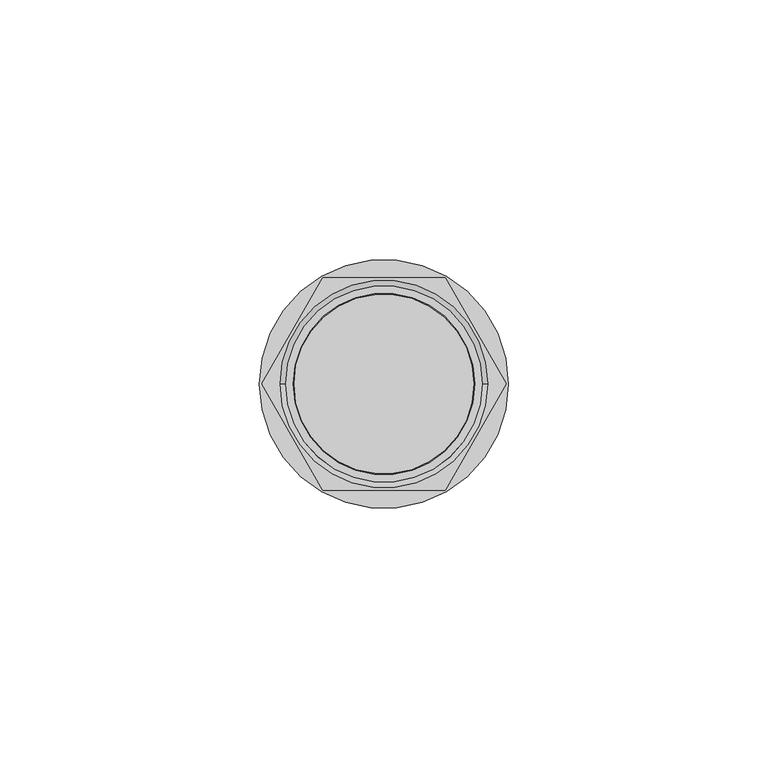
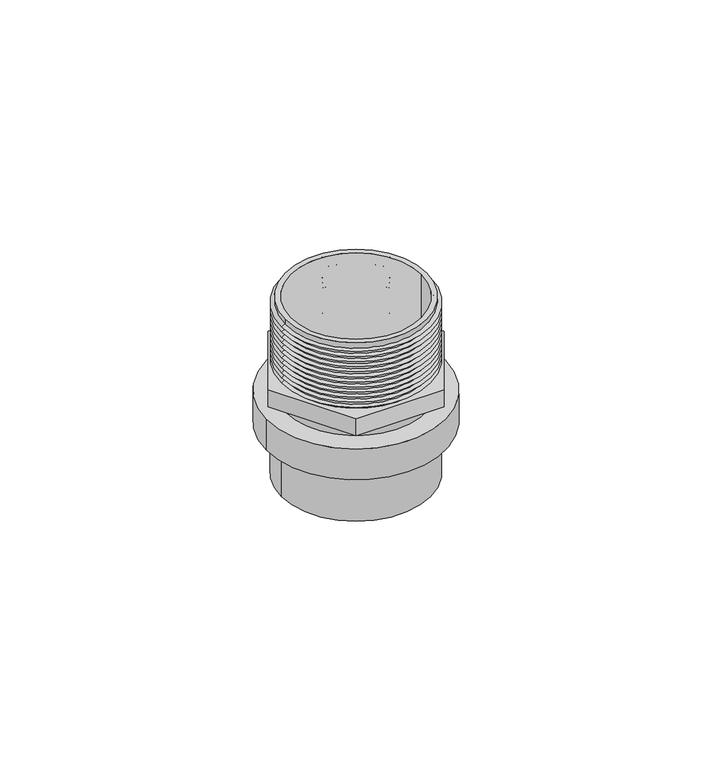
"""IFC4 building model written with IfcOpenShell, lengths in millimetres: valve geometry, Adaptador Macho con Ins Metalico_Lubrizol_CPVC_FlowGuard_MX 32mm : Adaptador Macho con Ins Metalico_Lubrizol_CPVC_FlowGuard_MX 32mm."""

from ifc_helpers import new_model, si_unit, point, frame, origin, origin_with_axes, origin_2d, place, context, project, spatial, polyline, circle_curve, trimmed, segment, composite_curve, outline, extrude, source, transform, mapped, element, save
from ifc_brep_helpers import plane_surface, cylinder_surface, revolved_surface, advanced_brep


def valve_9c0856a4(model_context):
    return source(origin(), model_context, "Body", "SolidModel", [
        extrude(outline(composite_curve([segment(trimmed(circle_curve(origin_2d(), 23.9920294), [point((-23.9920294, 0.0))], [point((23.9920294, 0.0))], False, "CARTESIAN"), True, "CONTINUOUS"), segment(trimmed(circle_curve(origin_2d(), 23.9920294), [point((23.9920294, 0.0))], [point((-23.9920294, 0.0))], False, "CARTESIAN"), True, "CONTINUOUS")], self_intersect=False)), frame((0.0, 0.0, 14.5509653), z_axis=(0.0, 0.0, 1.0), x_axis=(1.0, 0.0, 0.0)), (0.0, 0.0, 1.0), 8.7219583),
        extrude(outline(composite_curve([segment(trimmed(circle_curve(origin_2d(), 18.9323508), [point((-18.9323508, 0.0))], [point((18.9323508, 0.0))], False, "CARTESIAN"), True, "CONTINUOUS"), segment(trimmed(circle_curve(origin_2d(), 18.9323508), [point((18.9323508, 0.0))], [point((-18.9323508, 0.0))], False, "CARTESIAN"), True, "CONTINUOUS")], self_intersect=False), holes=[composite_curve([segment(trimmed(circle_curve(origin_2d(), 17.5), [point((-17.5, 0.0))], [point((17.5, 0.0))], True, "CARTESIAN"), True, "CONTINUOUS"), segment(trimmed(circle_curve(origin_2d(), 17.5), [point((17.5, 0.0))], [point((-17.5, 0.0))], True, "CARTESIAN"), True, "CONTINUOUS")], self_intersect=False)]), frame((0.0, 0.0, 23.2729235), z_axis=(0.0, 0.0, 1.0), x_axis=(1.0, 0.0, 0.0)), (0.0, 0.0, 1.0), 26.6020765),
        extrude(outline(polyline([(-11.7996132, -20.4375296), (-23.5992265, 0.0), (-11.7996132, 20.4375296), (11.7996132, 20.4375296), (23.5992265, 0.0), (11.7996132, -20.4375296), (-11.7996132, -20.4375296)]), holes=[composite_curve([segment(trimmed(circle_curve(origin_2d(), 17.3348641), [point((-17.3348641, 0.0))], [point((17.3348641, 0.0))], True, "CARTESIAN"), True, "CONTINUOUS"), segment(trimmed(circle_curve(origin_2d(), 17.3348641), [point((17.3348641, 0.0))], [point((-17.3348641, 0.0))], True, "CARTESIAN"), True, "CONTINUOUS")], self_intersect=False)]), frame((0.0, 0.0, 26.7976605), z_axis=(0.0, 0.0, 1.0), x_axis=(1.0, 0.0, 0.0)), (0.0, 0.0, 1.0), 4.7791186),
        advanced_brep(
        [(18.9362873, 0.0, 48.8839284), (-18.9362873, 0.0, 48.8839284), (-18.9362873, 0.0, 49.875), (18.9362873, 0.0, 49.875), (20.0, 0.0, 48.1391088), (-20.0, 0.0, 48.1391088), (18.9657757, 0.0, 47.4149371), (-18.9657757, 0.0, 47.4149371), (20.0, 0.0, 46.6907655), (-20.0, 0.0, 46.6907655), (18.9657757, 0.0, 45.9665939), (-18.9657757, 0.0, 45.9665939), (20.0, 0.0, 45.2424223), (-20.0, 0.0, 45.2424223), (18.9657757, 0.0, 44.5182506), (-18.9657757, 0.0, 44.5182506), (20.0, 0.0, 43.794079), (-20.0, 0.0, 43.794079), (18.9657757, 0.0, 43.0699074), (-18.9657757, 0.0, 43.0699074), (20.0, 0.0, 42.3457358), (-20.0, 0.0, 42.3457358), (18.9657757, 0.0, 41.6215641), (-18.9657757, 0.0, 41.6215641), (20.0, 0.0, 40.8973925), (-20.0, 0.0, 40.8973925), (18.9657757, 0.0, 40.1732209), (-18.9657757, 0.0, 40.1732209), (20.0, 0.0, 39.4490493), (-20.0, 0.0, 39.4490493), (18.9657757, 0.0, 38.7248777), (-18.9657757, 0.0, 38.7248777), (20.0, 0.0, 38.000706), (-20.0, 0.0, 38.000706), (18.9657757, 0.0, 37.2765344), (-18.9657757, 0.0, 37.2765344), (20.0, 0.0, 36.5523628), (-20.0, 0.0, 36.5523628), (18.9992007, 0.0, 35.8515956), (-18.9992007, 0.0, 35.8515956), (20.0, 0.0, 35.1508284), (-20.0, 0.0, 35.1508284), (18.9992007, 0.0, 34.4500612), (-18.9992007, 0.0, 34.4500612), (18.0854831, 0.0, 49.875), (-18.0854831, 0.0, 49.875), (-18.0854831, 0.0, 31.5767791), (18.0854831, 0.0, 31.5767791), (20.0, 0.0, 33.749294), (-20.0, 0.0, 33.749294), (18.9323508, 0.0, 33.0017179), (-18.9323508, 0.0, 33.0017179), (20.0, 0.0, 32.2541419), (-20.0, 0.0, 32.2541419), (19.0326257, 0.0, 31.5767791), (-19.0326257, 0.0, 31.5767791)],
        [
            (0, 1, circle_curve(frame((0.0, 0.0, 48.8839284), z_axis=(0.0, 0.0, 1.0), x_axis=(-1.0, 0.0, 0.0)), 18.9362873)),
            (1, 2),
            (2, 3, circle_curve(frame((0.0, 0.0, 49.875), z_axis=(0.0, 0.0, -1.0), x_axis=(-1.0, 0.0, 0.0)), 18.9362873)),
            (3, 0),
            (1, 0, circle_curve(frame((0.0, 0.0, 48.8839284), z_axis=(0.0, 0.0, 1.0), x_axis=(-1.0, 0.0, 0.0)), 18.9362873)),
            (3, 2, circle_curve(frame((0.0, 0.0, 49.875), z_axis=(0.0, 0.0, -1.0), x_axis=(-1.0, 0.0, 0.0)), 18.9362873)),
            (4, 5, circle_curve(frame((0.0, 0.0, 48.1391088), z_axis=(0.0, 0.0, 1.0), x_axis=(-1.0, 0.0, 0.0)), 20.0)),
            (5, 1),
            (0, 4),
            (5, 4, circle_curve(frame((0.0, 0.0, 48.1391088), z_axis=(0.0, 0.0, 1.0), x_axis=(-1.0, 0.0, 0.0)), 20.0)),
            (6, 7, circle_curve(frame((0.0, 0.0, 47.4149371), z_axis=(0.0, 0.0, 1.0), x_axis=(-1.0, 0.0, 0.0)), 18.9657757)),
            (7, 5),
            (4, 6),
            (7, 6, circle_curve(frame((0.0, 0.0, 47.4149371), z_axis=(0.0, 0.0, 1.0), x_axis=(-1.0, 0.0, 0.0)), 18.9657757)),
            (8, 9, circle_curve(frame((0.0, 0.0, 46.6907655), z_axis=(0.0, 0.0, 1.0), x_axis=(-1.0, 0.0, 0.0)), 20.0)),
            (9, 7),
            (6, 8),
            (9, 8, circle_curve(frame((0.0, 0.0, 46.6907655), z_axis=(0.0, 0.0, 1.0), x_axis=(-1.0, 0.0, 0.0)), 20.0)),
            (10, 11, circle_curve(frame((0.0, 0.0, 45.9665939), z_axis=(0.0, 0.0, 1.0), x_axis=(-1.0, 0.0, 0.0)), 18.9657757)),
            (11, 9),
            (8, 10),
            (11, 10, circle_curve(frame((0.0, 0.0, 45.9665939), z_axis=(0.0, 0.0, 1.0), x_axis=(-1.0, 0.0, 0.0)), 18.9657757)),
            (12, 13, circle_curve(frame((0.0, 0.0, 45.2424223), z_axis=(0.0, 0.0, 1.0), x_axis=(-1.0, 0.0, 0.0)), 20.0)),
            (13, 11),
            (10, 12),
            (13, 12, circle_curve(frame((0.0, 0.0, 45.2424223), z_axis=(0.0, 0.0, 1.0), x_axis=(-1.0, 0.0, 0.0)), 20.0)),
            (14, 15, circle_curve(frame((0.0, 0.0, 44.5182506), z_axis=(0.0, 0.0, 1.0), x_axis=(-1.0, 0.0, 0.0)), 18.9657757)),
            (15, 13),
            (12, 14),
            (15, 14, circle_curve(frame((0.0, 0.0, 44.5182506), z_axis=(0.0, 0.0, 1.0), x_axis=(-1.0, 0.0, 0.0)), 18.9657757)),
            (16, 17, circle_curve(frame((0.0, 0.0, 43.794079), z_axis=(0.0, 0.0, 1.0), x_axis=(-1.0, 0.0, 0.0)), 20.0)),
            (17, 15),
            (14, 16),
            (17, 16, circle_curve(frame((0.0, 0.0, 43.794079), z_axis=(0.0, 0.0, 1.0), x_axis=(-1.0, 0.0, 0.0)), 20.0)),
            (18, 19, circle_curve(frame((0.0, 0.0, 43.0699074), z_axis=(0.0, 0.0, 1.0), x_axis=(-1.0, 0.0, 0.0)), 18.9657757)),
            (19, 17),
            (16, 18),
            (19, 18, circle_curve(frame((0.0, 0.0, 43.0699074), z_axis=(0.0, 0.0, 1.0), x_axis=(-1.0, 0.0, 0.0)), 18.9657757)),
            (20, 21, circle_curve(frame((0.0, 0.0, 42.3457358), z_axis=(0.0, 0.0, 1.0), x_axis=(-1.0, 0.0, 0.0)), 20.0)),
            (21, 19),
            (18, 20),
            (21, 20, circle_curve(frame((0.0, 0.0, 42.3457358), z_axis=(0.0, 0.0, 1.0), x_axis=(-1.0, 0.0, 0.0)), 20.0)),
            (22, 23, circle_curve(frame((0.0, 0.0, 41.6215641), z_axis=(0.0, 0.0, 1.0), x_axis=(-1.0, 0.0, 0.0)), 18.9657757)),
            (23, 21),
            (20, 22),
            (23, 22, circle_curve(frame((0.0, 0.0, 41.6215641), z_axis=(0.0, 0.0, 1.0), x_axis=(-1.0, 0.0, 0.0)), 18.9657757)),
            (24, 25, circle_curve(frame((0.0, 0.0, 40.8973925), z_axis=(0.0, 0.0, 1.0), x_axis=(-1.0, 0.0, 0.0)), 20.0)),
            (25, 23),
            (22, 24),
            (25, 24, circle_curve(frame((0.0, 0.0, 40.8973925), z_axis=(0.0, 0.0, 1.0), x_axis=(-1.0, 0.0, 0.0)), 20.0)),
            (26, 27, circle_curve(frame((0.0, 0.0, 40.1732209), z_axis=(0.0, 0.0, 1.0), x_axis=(-1.0, 0.0, 0.0)), 18.9657757)),
            (27, 25),
            (24, 26),
            (27, 26, circle_curve(frame((0.0, 0.0, 40.1732209), z_axis=(0.0, 0.0, 1.0), x_axis=(-1.0, 0.0, 0.0)), 18.9657757)),
            (28, 29, circle_curve(frame((0.0, 0.0, 39.4490493), z_axis=(0.0, 0.0, 1.0), x_axis=(-1.0, 0.0, 0.0)), 20.0)),
            (29, 27),
            (26, 28),
            (29, 28, circle_curve(frame((0.0, 0.0, 39.4490493), z_axis=(0.0, 0.0, 1.0), x_axis=(-1.0, 0.0, 0.0)), 20.0)),
            (30, 31, circle_curve(frame((0.0, 0.0, 38.7248777), z_axis=(0.0, 0.0, 1.0), x_axis=(-1.0, 0.0, 0.0)), 18.9657757)),
            (31, 29),
            (28, 30),
            (31, 30, circle_curve(frame((0.0, 0.0, 38.7248777), z_axis=(0.0, 0.0, 1.0), x_axis=(-1.0, 0.0, 0.0)), 18.9657757)),
            (32, 33, circle_curve(frame((0.0, 0.0, 38.000706), z_axis=(0.0, 0.0, 1.0), x_axis=(-1.0, 0.0, 0.0)), 20.0)),
            (33, 31),
            (30, 32),
            (33, 32, circle_curve(frame((0.0, 0.0, 38.000706), z_axis=(0.0, 0.0, 1.0), x_axis=(-1.0, 0.0, 0.0)), 20.0)),
            (34, 35, circle_curve(frame((0.0, 0.0, 37.2765344), z_axis=(0.0, 0.0, 1.0), x_axis=(-1.0, 0.0, 0.0)), 18.9657757)),
            (35, 33),
            (32, 34),
            (35, 34, circle_curve(frame((0.0, 0.0, 37.2765344), z_axis=(0.0, 0.0, 1.0), x_axis=(-1.0, 0.0, 0.0)), 18.9657757)),
            (36, 37, circle_curve(frame((0.0, 0.0, 36.5523628), z_axis=(0.0, 0.0, 1.0), x_axis=(-1.0, 0.0, 0.0)), 20.0)),
            (37, 35),
            (34, 36),
            (37, 36, circle_curve(frame((0.0, 0.0, 36.5523628), z_axis=(0.0, 0.0, 1.0), x_axis=(-1.0, 0.0, 0.0)), 20.0)),
            (38, 39, circle_curve(frame((0.0, 0.0, 35.8515956), z_axis=(0.0, 0.0, 1.0), x_axis=(-1.0, 0.0, 0.0)), 18.9992007)),
            (39, 37),
            (36, 38),
            (39, 38, circle_curve(frame((0.0, 0.0, 35.8515956), z_axis=(0.0, 0.0, 1.0), x_axis=(-1.0, 0.0, 0.0)), 18.9992007)),
            (40, 41, circle_curve(frame((0.0, 0.0, 35.1508284), z_axis=(0.0, 0.0, 1.0), x_axis=(-1.0, 0.0, 0.0)), 20.0)),
            (41, 39),
            (38, 40),
            (41, 40, circle_curve(frame((0.0, 0.0, 35.1508284), z_axis=(0.0, 0.0, 1.0), x_axis=(-1.0, 0.0, 0.0)), 20.0)),
            (42, 43, circle_curve(frame((0.0, 0.0, 34.4500612), z_axis=(0.0, 0.0, 1.0), x_axis=(-1.0, 0.0, 0.0)), 18.9992007)),
            (43, 41),
            (40, 42),
            (43, 42, circle_curve(frame((0.0, 0.0, 34.4500612), z_axis=(0.0, 0.0, 1.0), x_axis=(-1.0, 0.0, 0.0)), 18.9992007)),
            (44, 45, circle_curve(frame((0.0, 0.0, 49.875), z_axis=(0.0, 0.0, 1.0), x_axis=(-1.0, 0.0, 0.0)), 18.0854831)),
            (45, 46),
            (46, 47, circle_curve(frame((0.0, 0.0, 31.5767791), z_axis=(0.0, 0.0, -1.0), x_axis=(-1.0, 0.0, 0.0)), 18.0854831)),
            (47, 44),
            (45, 44, circle_curve(frame((0.0, 0.0, 49.875), z_axis=(0.0, 0.0, 1.0), x_axis=(-1.0, 0.0, 0.0)), 18.0854831)),
            (47, 46, circle_curve(frame((0.0, 0.0, 31.5767791), z_axis=(0.0, 0.0, -1.0), x_axis=(-1.0, 0.0, 0.0)), 18.0854831)),
            (2, 45),
            (44, 3),
            (48, 49, circle_curve(frame((0.0, 0.0, 33.749294), z_axis=(0.0, 0.0, 1.0), x_axis=(-1.0, 0.0, 0.0)), 20.0)),
            (49, 43),
            (42, 48),
            (49, 48, circle_curve(frame((0.0, 0.0, 33.749294), z_axis=(0.0, 0.0, 1.0), x_axis=(-1.0, 0.0, 0.0)), 20.0)),
            (50, 51, circle_curve(frame((0.0, 0.0, 33.0017179), z_axis=(0.0, 0.0, 1.0), x_axis=(-1.0, 0.0, 0.0)), 18.9323508)),
            (51, 49),
            (48, 50),
            (51, 50, circle_curve(frame((0.0, 0.0, 33.0017179), z_axis=(0.0, 0.0, 1.0), x_axis=(-1.0, 0.0, 0.0)), 18.9323508)),
            (52, 53, circle_curve(frame((0.0, 0.0, 32.2541419), z_axis=(0.0, 0.0, 1.0), x_axis=(-1.0, 0.0, 0.0)), 20.0)),
            (53, 51),
            (50, 52),
            (53, 52, circle_curve(frame((0.0, 0.0, 32.2541419), z_axis=(0.0, 0.0, 1.0), x_axis=(-1.0, 0.0, 0.0)), 20.0)),
            (54, 55, circle_curve(frame((0.0, 0.0, 31.5767791), z_axis=(0.0, 0.0, 1.0), x_axis=(-1.0, 0.0, 0.0)), 19.0326257)),
            (55, 53),
            (52, 54),
            (55, 54, circle_curve(frame((0.0, 0.0, 31.5767791), z_axis=(0.0, 0.0, 1.0), x_axis=(-1.0, 0.0, 0.0)), 19.0326257)),
            (46, 55),
            (54, 47),
        ],
        [
            cylinder_surface(frame((0.0, 0.0, 44.6339883), z_axis=(0.0, 0.0, -1.0), x_axis=(-1.0, 0.0, 0.0)), 18.9362873),
            revolved_surface(polyline([(-18.9362873, 0.0, 48.8839284), (-20.0, 0.0, 48.1391088)]), (0.0, 0.0, 44.6339883), (0.0, 0.0, -1.0)),
            revolved_surface(polyline([(-20.0, 0.0, 48.1391088), (-18.9657757, 0.0, 47.4149371)]), (0.0, 0.0, 44.6339883), (0.0, 0.0, -1.0)),
            revolved_surface(polyline([(-18.9657757, 0.0, 47.4149371), (-20.0, 0.0, 46.6907655)]), (0.0, 0.0, 44.6339883), (0.0, 0.0, -1.0)),
            revolved_surface(polyline([(-20.0, 0.0, 46.6907655), (-18.9657757, 0.0, 45.9665939)]), (0.0, 0.0, 44.6339883), (0.0, 0.0, -1.0)),
            revolved_surface(polyline([(-18.9657757, 0.0, 45.9665939), (-20.0, 0.0, 45.2424223)]), (0.0, 0.0, 44.6339883), (0.0, 0.0, -1.0)),
            revolved_surface(polyline([(-20.0, 0.0, 45.2424223), (-18.9657757, 0.0, 44.5182506)]), (0.0, 0.0, 44.6339883), (0.0, 0.0, -1.0)),
            revolved_surface(polyline([(-18.9657757, 0.0, 44.5182506), (-20.0, 0.0, 43.794079)]), (0.0, 0.0, 44.6339883), (0.0, 0.0, -1.0)),
            revolved_surface(polyline([(-20.0, 0.0, 43.794079), (-18.9657757, 0.0, 43.0699074)]), (0.0, 0.0, 44.6339883), (0.0, 0.0, -1.0)),
            revolved_surface(polyline([(-18.9657757, 0.0, 43.0699074), (-20.0, 0.0, 42.3457358)]), (0.0, 0.0, 44.6339883), (0.0, 0.0, -1.0)),
            revolved_surface(polyline([(-20.0, 0.0, 42.3457358), (-18.9657757, 0.0, 41.6215641)]), (0.0, 0.0, 44.6339883), (0.0, 0.0, -1.0)),
            revolved_surface(polyline([(-18.9657757, 0.0, 41.6215641), (-20.0, 0.0, 40.8973925)]), (0.0, 0.0, 44.6339883), (0.0, 0.0, -1.0)),
            revolved_surface(polyline([(-20.0, 0.0, 40.8973925), (-18.9657757, 0.0, 40.1732209)]), (0.0, 0.0, 44.6339883), (0.0, 0.0, -1.0)),
            revolved_surface(polyline([(-18.9657757, 0.0, 40.1732209), (-20.0, 0.0, 39.4490493)]), (0.0, 0.0, 44.6339883), (0.0, 0.0, -1.0)),
            revolved_surface(polyline([(-20.0, 0.0, 39.4490493), (-18.9657757, 0.0, 38.7248777)]), (0.0, 0.0, 44.6339883), (0.0, 0.0, -1.0)),
            revolved_surface(polyline([(-18.9657757, 0.0, 38.7248777), (-20.0, 0.0, 38.000706)]), (0.0, 0.0, 44.6339883), (0.0, 0.0, -1.0)),
            revolved_surface(polyline([(-20.0, 0.0, 38.000706), (-18.9657757, 0.0, 37.2765344)]), (0.0, 0.0, 44.6339883), (0.0, 0.0, -1.0)),
            revolved_surface(polyline([(-18.9657757, 0.0, 37.2765344), (-20.0, 0.0, 36.5523628)]), (0.0, 0.0, 44.6339883), (0.0, 0.0, -1.0)),
            revolved_surface(polyline([(-20.0, 0.0, 36.5523628), (-18.9992007, 0.0, 35.8515956)]), (0.0, 0.0, 44.6339883), (0.0, 0.0, -1.0)),
            revolved_surface(polyline([(-18.9992007, 0.0, 35.8515956), (-20.0, 0.0, 35.1508284)]), (0.0, 0.0, 44.6339883), (0.0, 0.0, -1.0)),
            revolved_surface(polyline([(-20.0, 0.0, 35.1508284), (-18.9992007, 0.0, 34.4500612)]), (0.0, 0.0, 44.6339883), (0.0, 0.0, -1.0)),
            revolved_surface(polyline([(-18.0854831, 0.0, 31.5767791), (-18.0854831, 0.0, 49.875)]), (0.0, 0.0, 44.6339883), (0.0, 0.0, -1.0)),
            plane_surface(frame((0.0, 0.0, 49.875), z_axis=(0.0, 0.0, 1.0), x_axis=(-1.0, 0.0, 0.0))),
            revolved_surface(polyline([(-18.9992007, 0.0, 34.4500612), (-20.0, 0.0, 33.749294)]), (0.0, 0.0, 44.6339883), (0.0, 0.0, -1.0)),
            revolved_surface(polyline([(-20.0, 0.0, 33.749294), (-18.9323508, 0.0, 33.0017179)]), (0.0, 0.0, 44.6339883), (0.0, 0.0, -1.0)),
            revolved_surface(polyline([(-18.9323508, 0.0, 33.0017179), (-20.0, 0.0, 32.2541419)]), (0.0, 0.0, 44.6339883), (0.0, 0.0, -1.0)),
            revolved_surface(polyline([(-20.0, 0.0, 32.2541419), (-19.0326257, 0.0, 31.5767791)]), (0.0, 0.0, 44.6339883), (0.0, 0.0, -1.0)),
            plane_surface(frame((0.0, 0.0, 31.5767791), z_axis=(0.0, 0.0, -1.0), x_axis=(-1.0, 0.0, 0.0))),
        ],
        [
            (0, [[1, 2, 3, 4]]),
            (0, [[5, -4, 6, -2]]),
            (1, [[7, 8, -1, 9]]),
            (1, [[10, -9, -5, -8]]),
            (2, [[11, 12, -7, 13]]),
            (2, [[14, -13, -10, -12]]),
            (3, [[15, 16, -11, 17]]),
            (3, [[18, -17, -14, -16]]),
            (4, [[19, 20, -15, 21]]),
            (4, [[22, -21, -18, -20]]),
            (5, [[23, 24, -19, 25]]),
            (5, [[26, -25, -22, -24]]),
            (6, [[27, 28, -23, 29]]),
            (6, [[30, -29, -26, -28]]),
            (7, [[31, 32, -27, 33]]),
            (7, [[34, -33, -30, -32]]),
            (8, [[35, 36, -31, 37]]),
            (8, [[38, -37, -34, -36]]),
            (9, [[39, 40, -35, 41]]),
            (9, [[42, -41, -38, -40]]),
            (10, [[43, 44, -39, 45]]),
            (10, [[46, -45, -42, -44]]),
            (11, [[47, 48, -43, 49]]),
            (11, [[50, -49, -46, -48]]),
            (12, [[51, 52, -47, 53]]),
            (12, [[54, -53, -50, -52]]),
            (13, [[55, 56, -51, 57]]),
            (13, [[58, -57, -54, -56]]),
            (14, [[59, 60, -55, 61]]),
            (14, [[62, -61, -58, -60]]),
            (15, [[63, 64, -59, 65]]),
            (15, [[66, -65, -62, -64]]),
            (16, [[67, 68, -63, 69]]),
            (16, [[70, -69, -66, -68]]),
            (17, [[71, 72, -67, 73]]),
            (17, [[74, -73, -70, -72]]),
            (18, [[75, 76, -71, 77]]),
            (18, [[78, -77, -74, -76]]),
            (19, [[79, 80, -75, 81]]),
            (19, [[82, -81, -78, -80]]),
            (20, [[83, 84, -79, 85]]),
            (20, [[86, -85, -82, -84]]),
            (21, [[87, 88, 89, 90]]),
            (21, [[91, -90, 92, -88]]),
            (22, [[-3, 93, -87, 94]]),
            (22, [[-6, -94, -91, -93]]),
            (23, [[95, 96, -83, 97]]),
            (23, [[98, -97, -86, -96]]),
            (24, [[99, 100, -95, 101]]),
            (24, [[102, -101, -98, -100]]),
            (25, [[103, 104, -99, 105]]),
            (25, [[106, -105, -102, -104]]),
            (26, [[107, 108, -103, 109]]),
            (26, [[110, -109, -106, -108]]),
            (27, [[-89, 111, -107, 112]]),
            (27, [[-92, -112, -110, -111]]),
        ],
    ),
        extrude(outline(composite_curve([segment(trimmed(circle_curve(origin_2d(), 20.0), [point((-20.0, 0.0))], [point((20.0, 0.0))], False, "CARTESIAN"), True, "CONTINUOUS"), segment(trimmed(circle_curve(origin_2d(), 20.0), [point((20.0, 0.0))], [point((-20.0, 0.0))], False, "CARTESIAN"), True, "CONTINUOUS")], self_intersect=False), holes=[composite_curve([segment(trimmed(circle_curve(origin_2d(), 17.5), [point((-17.5, 0.0))], [point((17.5, 0.0))], True, "CARTESIAN"), True, "CONTINUOUS"), segment(trimmed(circle_curve(origin_2d(), 17.5), [point((17.5, 0.0))], [point((-17.5, 0.0))], True, "CARTESIAN"), True, "CONTINUOUS")], self_intersect=False)]), origin_with_axes(), (0.0, 0.0, 1.0), 14.5509653),
    ])


if __name__ == "__main__":
    model = new_model("IFC4")
    model_context = context("Model", 3, world=origin())
    ifc_project = project(units=[si_unit("LENGTHUNIT", "METRE", prefix="MILLI")], contexts=[model_context])
    site = spatial("IfcSite", under=ifc_project)
    building = spatial("IfcBuilding", under=site)
    placement = place(None, origin())
    valve_shape = valve_9c0856a4(model_context)
    element("IfcValve", 1, ObjectType="Adaptador Macho con Ins Metalico_Lubrizol_CPVC_FlowGuard_MX 32mm : Adaptador Macho con Ins Metalico_Lubrizol_CPVC_FlowGuard_MX 32mm", at=placement, inside=building, context=model_context, shape_type="MappedRepresentation", body=[
        mapped(valve_shape, transform((0.0, 0.0, 0.0), x_axis=(1.0, 0.0, 0.0), y_axis=(0.0, 1.0, 0.0), z_axis=(0.0, 0.0, 1.0))),
    ])
    save(model, "model.ifc")
